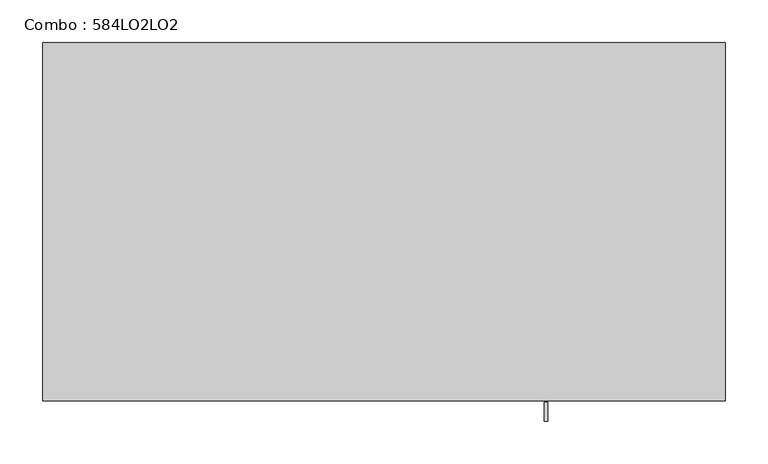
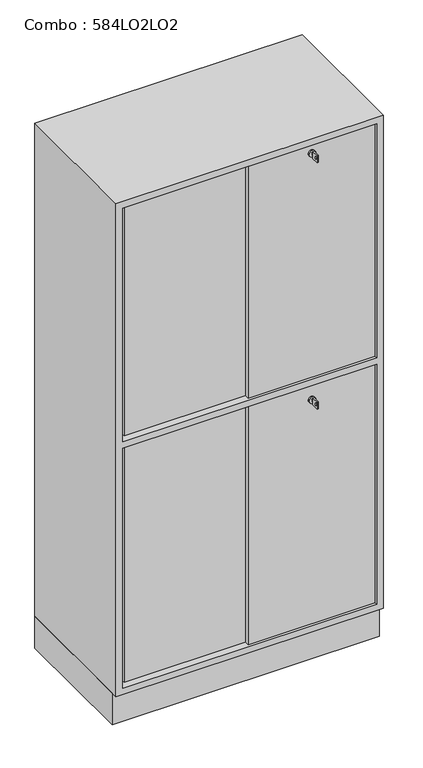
"""IFC4 building model written with IfcOpenShell, lengths in millimetres: furniture geometry, Combo : 584LO2LO2."""

from ifc_helpers import new_model, si_unit, point, frame, frame_2d, origin, origin_with_axes, place, context, project, spatial, polyline, circle_curve, trimmed, segment, composite_curve, outline, extrude, faceted_brep, source, transform, mapped, element, save


def combo_584lo2lo2_bb4d1e14(model_context):
    return source(origin(), model_context, "Body", "SolidModel", [
        extrude(outline(polyline([(-400.0, -400.0), (-400.0, 0.0), (400.0, 0.0), (400.0, -400.0), (-400.0, -400.0)])), origin_with_axes(), (0.0, 0.0, 1.0), 100.0),
        extrude(outline(composite_curve([segment(trimmed(circle_curve(frame_2d((1610.0, 190.0)), 10.0), [point((1610.0, 180.0))], [point((1610.0, 200.0))], False, "CARTESIAN"), True, "CONTINUOUS"), segment(trimmed(circle_curve(frame_2d((1610.0, 190.0)), 10.0), [point((1610.0, 200.0))], [point((1610.0, 180.0))], False, "CARTESIAN"), True, "CONTINUOUS")], self_intersect=False)), frame((0.0, -416.0, 0.0), z_axis=(0.0, 1.0, 0.0), x_axis=(0.0, 0.0, 1.0)), (0.0, 0.0, 1.0), 4.0),
        extrude(outline(polyline([(-444.0, 1599.014113), (-444.0, 1621.0), (-422.0, 1621.0), (-422.0, 1599.014113), (-444.0, 1599.014113)]), holes=[composite_curve([segment(trimmed(circle_curve(frame_2d((-437.75, 1610.0070565)), 3.2230706), [point((-437.75, 1613.2301271))], [point((-437.75, 1606.7839859))], True, "CARTESIAN"), True, "CONTINUOUS"), segment(trimmed(circle_curve(frame_2d((-437.75, 1610.0070565)), 3.2230706), [point((-437.75, 1606.7839859))], [point((-437.75, 1613.2301271))], True, "CARTESIAN"), True, "CONTINUOUS")], self_intersect=False)]), frame((188.0, 0.0, 0.0), z_axis=(1.0, 0.0, 0.0), x_axis=(0.0, 1.0, 0.0)), (0.0, 0.0, 1.0), 4.0416064),
        extrude(outline(polyline([(191.0416064, -422.0), (189.0, -422.0), (189.0, -416.0), (191.0416064, -416.0), (191.0416064, -422.0)])), frame((0.0, 0.0, 1606.014113), z_axis=(0.0, 0.0, 1.0), x_axis=(1.0, 0.0, 0.0)), (0.0, 0.0, 1.0), 7.985887),
        extrude(outline(composite_curve([segment(trimmed(circle_curve(frame_2d((830.0, 190.0)), 10.0), [point((830.0, 180.0))], [point((830.0, 200.0))], False, "CARTESIAN"), True, "CONTINUOUS"), segment(trimmed(circle_curve(frame_2d((830.0, 190.0)), 10.0), [point((830.0, 200.0))], [point((830.0, 180.0))], False, "CARTESIAN"), True, "CONTINUOUS")], self_intersect=False)), frame((0.0, -416.0, 0.0), z_axis=(0.0, 1.0, 0.0), x_axis=(0.0, 0.0, 1.0)), (0.0, 0.0, 1.0), 4.0),
        extrude(outline(polyline([(-444.0, 819.014113), (-444.0, 841.0), (-422.0, 841.0), (-422.0, 819.014113), (-444.0, 819.014113)]), holes=[composite_curve([segment(trimmed(circle_curve(frame_2d((-437.75, 830.0070565)), 3.2230706), [point((-437.75, 833.2301271))], [point((-437.75, 826.7839859))], True, "CARTESIAN"), True, "CONTINUOUS"), segment(trimmed(circle_curve(frame_2d((-437.75, 830.0070565)), 3.2230706), [point((-437.75, 826.7839859))], [point((-437.75, 833.2301271))], True, "CARTESIAN"), True, "CONTINUOUS")], self_intersect=False)]), frame((188.0, 0.0, 0.0), z_axis=(1.0, 0.0, 0.0), x_axis=(0.0, 1.0, 0.0)), (0.0, 0.0, 1.0), 4.0416064),
        extrude(outline(polyline([(191.0416064, -422.0), (189.0, -422.0), (189.0, -416.0), (191.0416064, -416.0), (191.0416064, -422.0)])), frame((0.0, 0.0, 826.014113), z_axis=(0.0, 0.0, 1.0), x_axis=(1.0, 0.0, 0.0)), (0.0, 0.0, 1.0), 7.985887),
        extrude(outline(polyline([(-378.0478528, -398.0), (-380.0, -398.0), (-380.0, -386.0), (380.0, -386.0), (380.0, -412.0), (0.0, -412.0), (0.0, -400.0), (8.9521472, -400.0), (8.9521472, -398.0), (-361.0478528, -398.0), (-363.0478528, -398.0), (-363.0478528, -388.0), (-378.0478528, -388.0), (-378.0478528, -398.0)])), frame((0.0, 0.0, 120.0), z_axis=(0.0, 0.0, 1.0), x_axis=(1.0, 0.0, 0.0)), (0.0, 0.0, 1.0), 760.0),
        extrude(outline(polyline([(-378.0478528, -398.0), (-380.0, -398.0), (-380.0, -386.0), (380.0, -386.0), (380.0, -412.0), (0.0, -412.0), (0.0, -400.0), (8.9521472, -400.0), (8.9521472, -398.0), (-361.0478528, -398.0), (-363.0478528, -398.0), (-363.0478528, -388.0), (-378.0478528, -388.0), (-378.0478528, -398.0)])), frame((0.0, 0.0, 900.0), z_axis=(0.0, 0.0, 1.0), x_axis=(1.0, 0.0, 0.0)), (0.0, 0.0, 1.0), 740.0),
        faceted_brep([(400.0, 0.0, 1660.0), (-400.0, 0.0, 1660.0), (-400.0, -420.0, 1660.0), (400.0, -420.0, 1660.0), (-400.0, 0.0, 100.0), (400.0, 0.0, 100.0), (400.0, -420.0, 100.0), (-400.0, -420.0, 100.0), (380.0, -420.0, 880.0), (380.0, -420.0, 120.0), (-380.0, -420.0, 120.0), (-380.0, -420.0, 880.0), (-380.0, -420.0, 1640.0), (380.0, -420.0, 1640.0), (380.0, -420.0, 900.0), (-380.0, -420.0, 900.0), (-380.0, -386.0, 1640.0), (380.0, -386.0, 1640.0), (-380.0, -386.0, 900.0), (380.0, -386.0, 900.0), (380.0, -386.0, 880.0), (380.0, -386.0, 120.0), (-380.0, -386.0, 880.0), (-380.0, -386.0, 120.0)], [[[0, 1, 2, 3]], [[4, 5, 6, 7]], [[1, 0, 5, 4]], [[2, 1, 4, 7]], [[3, 2, 7, 6], [8, 9, 10, 11], [12, 13, 14, 15]], [[0, 3, 6, 5]], [[16, 17, 13, 12]], [[18, 15, 14, 19]], [[13, 17, 19, 14]], [[16, 12, 15, 18]], [[17, 16, 18, 19]], [[8, 20, 21, 9]], [[22, 20, 8, 11]], [[23, 10, 9, 21]], [[22, 11, 10, 23]], [[20, 22, 23, 21]]]),
    ])


if __name__ == "__main__":
    model = new_model("IFC4")
    model_context = context("Model", 3, world=origin())
    ifc_project = project(units=[si_unit("LENGTHUNIT", "METRE", prefix="MILLI")], contexts=[model_context])
    site = spatial("IfcSite", under=ifc_project)
    building = spatial("IfcBuilding", under=site)
    placement = place(None, origin())
    combo_584lo2lo2_shape = combo_584lo2lo2_bb4d1e14(model_context)
    element("IfcFurniture", 1, ObjectType="Combo : 584LO2LO2", at=placement, inside=building, context=model_context, shape_type="MappedRepresentation", body=[
        mapped(combo_584lo2lo2_shape, transform((0.0, 0.0, 0.0), x_axis=(1.0, 0.0, 0.0), y_axis=(0.0, 1.0, 0.0), z_axis=(0.0, 0.0, 1.0))),
    ])
    save(model, "model.ifc")
